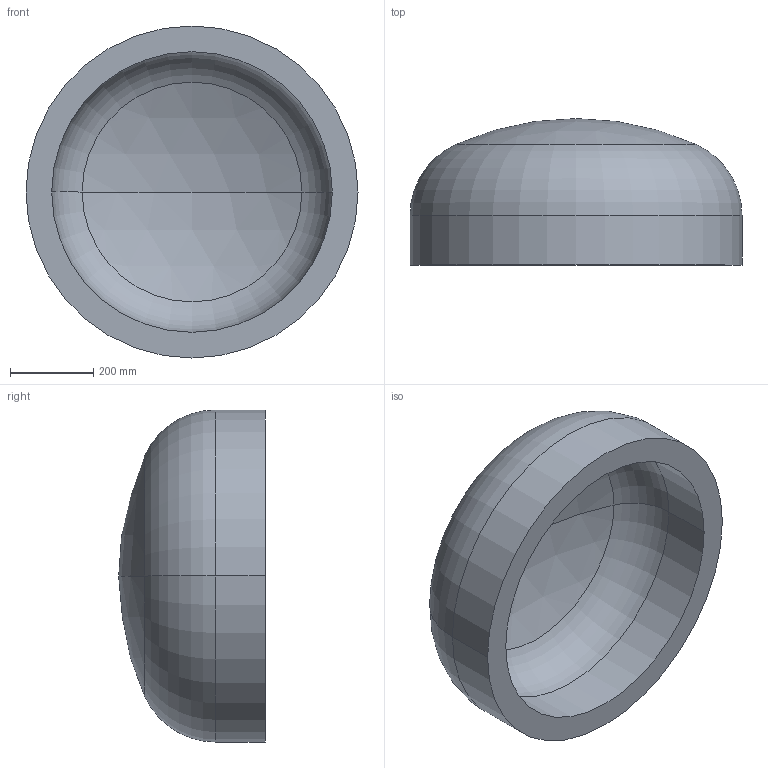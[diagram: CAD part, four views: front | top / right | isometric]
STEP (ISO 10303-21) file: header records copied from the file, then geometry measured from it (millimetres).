
FILE_DESCRIPTION (( 'STEP AP203' ), '1' );
FILE_NAME ('DIN 28013 Korbbogenform_-_Boden DIN 28013 - 800 x 120 - I - s=62.step', '2016-07-01T08:19:33', ( '' ), ( '' ), 'SwSTEP 2.0', 'SolidWorks 2013', '' );
FILE_SCHEMA (( 'CONFIG_CONTROL_DESIGN' ));
Length unit declared in the file: millimetre
Products named in the file (1): DIN 28013 Korbbogenform_-_Boden DIN 28013 - 800 x 120 - I - s=62
Bounding box: 800 x 353.11 x 800 mm (x, y, z)
Volume: 56523632.3 mm3; surface area: 1975140.3 mm2
Topology: 1 solids, 1 shells, 13 faces, 24 edges, 14 vertices
Faces by surface type: torus 4, cylinder 4, sphere 4, plane 1
Entity records: 407 total; most frequent: DIRECTION 72, CARTESIAN_POINT 52, ORIENTED_EDGE 48, AXIS2_PLACEMENT_3D 34, EDGE_CURVE 24, CIRCLE 20, VERTEX_POINT 14, EDGE_LOOP 14
